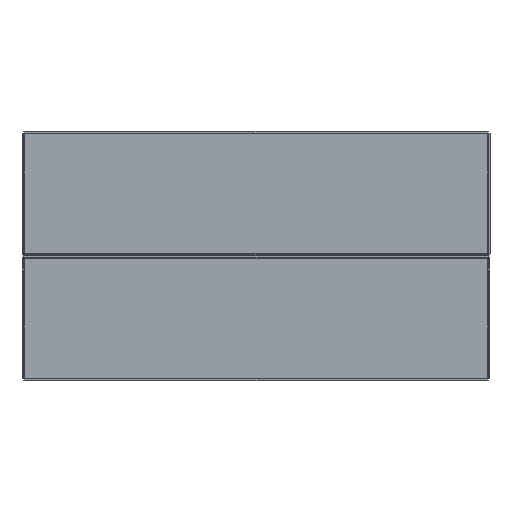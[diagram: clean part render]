
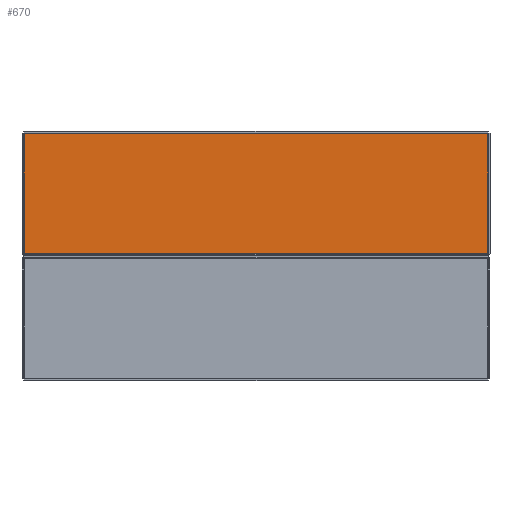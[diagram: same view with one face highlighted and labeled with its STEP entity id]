
A CAD part, top view. The second image highlights one B-rep face of the part: STEP entity #670.
In plain terms, the highlighted planar face has unit normal (0, 0, 1).
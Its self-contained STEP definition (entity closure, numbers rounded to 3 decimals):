
#37 = DIRECTION ( 'NONE',  ( 0., 1., 0. ) ) ;
#40 = LINE ( 'NONE', #1271, #481 ) ;
#89 = VECTOR ( 'NONE', #1185, 1000. ) ;
#102 = FACE_OUTER_BOUND ( 'NONE', #1094, .T. ) ;
#187 = ORIENTED_EDGE ( 'NONE', *, *, #1978, .T. ) ;
#199 = VERTEX_POINT ( 'NONE', #520 ) ;
#208 = AXIS2_PLACEMENT_3D ( 'NONE', #913, #607, #1101 ) ;
#265 = VERTEX_POINT ( 'NONE', #1030 ) ;
#381 = CARTESIAN_POINT ( 'NONE',  ( 185.5, 48., 0. ) ) ;
#481 = VECTOR ( 'NONE', #1968, 1000. ) ;
#520 = CARTESIAN_POINT ( 'NONE',  ( 185.5, 48., 0. ) ) ;
#607 = DIRECTION ( 'NONE',  ( 0., 0., 1. ) ) ;
#670 = ADVANCED_FACE ( 'NONE', ( #102 ), #778, .T. ) ;
#681 = CARTESIAN_POINT ( 'NONE',  ( -185.5, 48., 0. ) ) ;
#683 = CARTESIAN_POINT ( 'NONE',  ( -185.5, 48., 0. ) ) ;
#748 = LINE ( 'NONE', #683, #89 ) ;
#760 = LINE ( 'NONE', #381, #1214 ) ;
#778 = PLANE ( 'NONE',  #208 ) ;
#792 = ORIENTED_EDGE ( 'NONE', *, *, #1520, .T. ) ;
#794 = VERTEX_POINT ( 'NONE', #1294 ) ;
#913 = CARTESIAN_POINT ( 'NONE',  ( 0., 0., 0. ) ) ;
#963 = ORIENTED_EDGE ( 'NONE', *, *, #1334, .T. ) ;
#1030 = CARTESIAN_POINT ( 'NONE',  ( -185.5, -48., 0. ) ) ;
#1094 = EDGE_LOOP ( 'NONE', ( #792, #1943, #963, #187 ) ) ;
#1101 = DIRECTION ( 'NONE',  ( 1., 0., 0. ) ) ;
#1123 = VECTOR ( 'NONE', #1945, 1000. ) ;
#1185 = DIRECTION ( 'NONE',  ( -1., 0., 0. ) ) ;
#1188 = VERTEX_POINT ( 'NONE', #681 ) ;
#1214 = VECTOR ( 'NONE', #37, 1000. ) ;
#1225 = CARTESIAN_POINT ( 'NONE',  ( -185.5, -48., 0. ) ) ;
#1271 = CARTESIAN_POINT ( 'NONE',  ( -185.5, 48., 0. ) ) ;
#1294 = CARTESIAN_POINT ( 'NONE',  ( 185.5, -48., 0. ) ) ;
#1334 = EDGE_CURVE ( 'NONE', #794, #199, #760, .T. ) ;
#1486 = EDGE_CURVE ( 'NONE', #265, #794, #1755, .T. ) ;
#1520 = EDGE_CURVE ( 'NONE', #1188, #265, #40, .T. ) ;
#1755 = LINE ( 'NONE', #1225, #1123 ) ;
#1943 = ORIENTED_EDGE ( 'NONE', *, *, #1486, .T. ) ;
#1945 = DIRECTION ( 'NONE',  ( 1., 0., 0. ) ) ;
#1968 = DIRECTION ( 'NONE',  ( 0., -1., 0. ) ) ;
#1978 = EDGE_CURVE ( 'NONE', #199, #1188, #748, .T. ) ;
